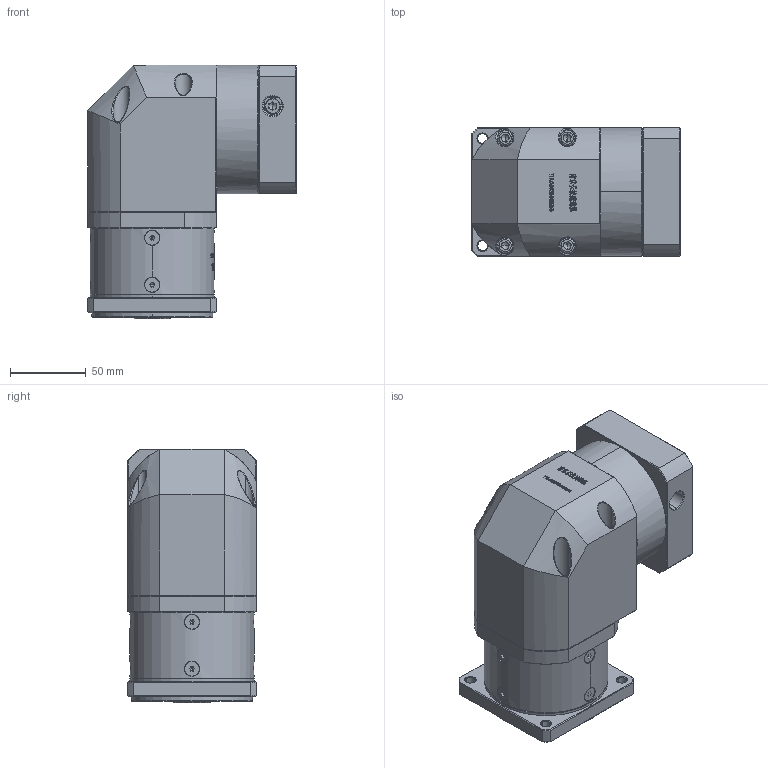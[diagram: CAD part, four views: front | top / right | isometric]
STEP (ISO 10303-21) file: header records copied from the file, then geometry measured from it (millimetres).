
FILE_DESCRIPTION (( 'STEP AP214' ), '1' );
FILE_NAME ('ZF80-K15-L1-12.7-73-69.5X69.5-M6.step', '2022-05-08T12:02:05', ( '' ), ( 'Microsoft' ), 'SwSTEP 2.0', 'SolidWorks 2016', '' );
FILE_SCHEMA (( 'AUTOMOTIVE_DESIGN' ));
Length unit declared in the file: millimetre
Products named in the file (1): ZF80-K15-L1-12.7-73-69.5X69.5-M6
Bounding box: 137.6 x 85 x 167.5 mm (x, y, z)
Volume: 1235927.1 mm3; surface area: 133984.8 mm2
Topology: 13 solids, 13 shells, 3009 faces, 7912 edges, 5050 vertices
Faces by surface type: plane 1612, bspline 614, cylinder 416, cone 353, torus 14
Entity records: 158905 total; most frequent: CARTESIAN_POINT 57077, ORIENTED_EDGE 15736, DIRECTION 11866, EDGE_CURVE 7868, VERTEX_POINT 5050, VECTOR 4926, LINE 4926, AXIS2_PLACEMENT_3D 3470
